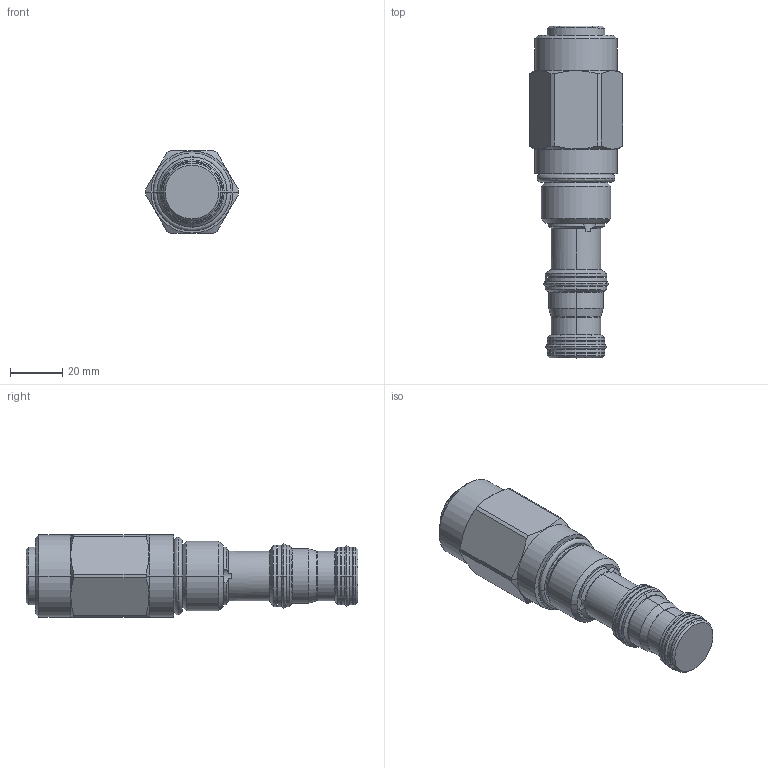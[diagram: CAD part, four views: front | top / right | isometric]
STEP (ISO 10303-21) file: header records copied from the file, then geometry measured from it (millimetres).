
FILE_DESCRIPTION((''),'2;1');
FILE_NAME('PRT0015','2009-03-25T',('JCS'),(''),'PRO/ENGINEER BY PARAMETRIC TECHNOLOGY CORPORATION, 2008510','PRO/ENGINEER BY PARAMETRIC TECHNOLOGY CORPORATION, 2008510','');
FILE_SCHEMA(('CONFIG_CONTROL_DESIGN'));
Length unit declared in the file: inch
Products named in the file (1): PRT0015
Bounding box: 35.81 x 127.32 x 31.75 mm (x, y, z)
Volume: 72842.9 mm3; surface area: 15036.9 mm2
Topology: 4 solids, 4 shells, 173 faces, 381 edges, 217 vertices
Faces by surface type: cylinder 50, cone 39, plane 31, torus 29, revolution 24
Entity records: 5846 total; most frequent: CARTESIAN_POINT 1971, DIRECTION 856, ORIENTED_EDGE 758, EDGE_CURVE 379, AXIS2_PLACEMENT_3D 358, VERTEX_POINT 217, CIRCLE 209, EDGE_LOOP 182
